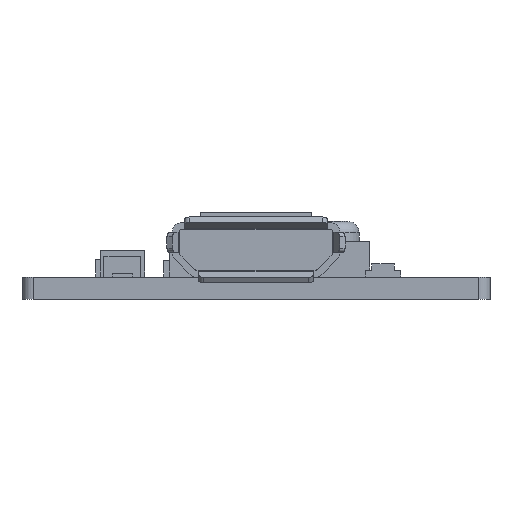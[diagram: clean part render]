
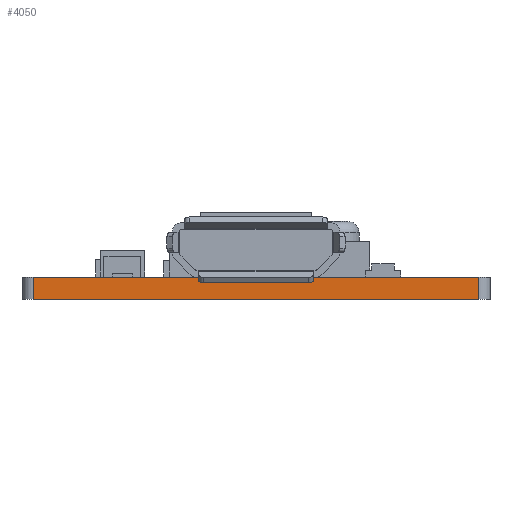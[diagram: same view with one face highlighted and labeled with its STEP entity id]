
A CAD part, front view. The second image highlights one B-rep face of the part: STEP entity #4050.
In plain terms, the highlighted planar face has unit normal (0, -1, 0).
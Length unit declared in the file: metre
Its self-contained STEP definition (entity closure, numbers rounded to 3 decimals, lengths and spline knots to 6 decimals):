
#295=LINE('',#7455,#649);
#297=LINE('',#7462,#651);
#412=LINE('',#7700,#766);
#416=LINE('',#7714,#770);
#417=LINE('',#7716,#771);
#418=LINE('',#7717,#772);
#649=VECTOR('',#6383,1.);
#651=VECTOR('',#6389,1.);
#766=VECTOR('',#6624,1.);
#770=VECTOR('',#6642,1.);
#771=VECTOR('',#6643,1.);
#772=VECTOR('',#6644,1.);
#1645=ORIENTED_EDGE('',*,*,#2293,.T.);
#1646=ORIENTED_EDGE('',*,*,#2294,.T.);
#1647=ORIENTED_EDGE('',*,*,#2163,.T.);
#1648=ORIENTED_EDGE('',*,*,#2295,.T.);
#1649=ORIENTED_EDGE('',*,*,#2286,.F.);
#1650=ORIENTED_EDGE('',*,*,#2166,.F.);
#2163=EDGE_CURVE('',#2602,#2601,#295,.T.);
#2166=EDGE_CURVE('',#2603,#2605,#297,.T.);
#2286=EDGE_CURVE('',#2605,#2668,#412,.T.);
#2293=EDGE_CURVE('',#2603,#2671,#416,.T.);
#2294=EDGE_CURVE('',#2671,#2602,#417,.T.);
#2295=EDGE_CURVE('',#2601,#2668,#418,.T.);
#2601=VERTEX_POINT('',#7454);
#2602=VERTEX_POINT('',#7456);
#2603=VERTEX_POINT('',#7460);
#2605=VERTEX_POINT('',#7463);
#2668=VERTEX_POINT('',#7701);
#2671=VERTEX_POINT('',#7715);
#3122=EDGE_LOOP('',(#1645,#1646,#1647,#1648,#1649,#1650));
#3470=FACE_BOUND('',#3122,.T.);
#3651=PLANE('',#5615);
#4050=ADVANCED_FACE('',(#3470),#3651,.T.);
#5615=AXIS2_PLACEMENT_3D('',#7713,#6640,#6641);
#6383=DIRECTION('',(-1.,0.,0.));
#6389=DIRECTION('',(-1.,0.,0.));
#6624=DIRECTION('',(0.,0.,1.));
#6640=DIRECTION('',(0.,-1.,0.));
#6641=DIRECTION('',(-1.,0.,0.));
#6642=DIRECTION('',(0.,0.,1.));
#6643=DIRECTION('',(-1.,0.,0.));
#6644=DIRECTION('',(-1.,0.,0.));
#7454=CARTESIAN_POINT('',(0.138449,-0.134188,0.005135));
#7455=CARTESIAN_POINT('',(0.15111,-0.134188,0.005135));
#7456=CARTESIAN_POINT('',(0.143771,-0.134188,0.005135));
#7460=CARTESIAN_POINT('',(0.15111,-0.134188,0.004135));
#7462=CARTESIAN_POINT('',(0.15111,-0.134188,0.004135));
#7463=CARTESIAN_POINT('',(0.13111,-0.134188,0.004135));
#7700=CARTESIAN_POINT('',(0.13111,-0.134188,0.004135));
#7701=CARTESIAN_POINT('',(0.13111,-0.134188,0.005135));
#7713=CARTESIAN_POINT('',(0.15111,-0.134188,0.004135));
#7714=CARTESIAN_POINT('',(0.15111,-0.134188,0.004135));
#7715=CARTESIAN_POINT('',(0.15111,-0.134188,0.005135));
#7716=CARTESIAN_POINT('',(0.15111,-0.134188,0.005135));
#7717=CARTESIAN_POINT('',(0.15111,-0.134188,0.005135));
